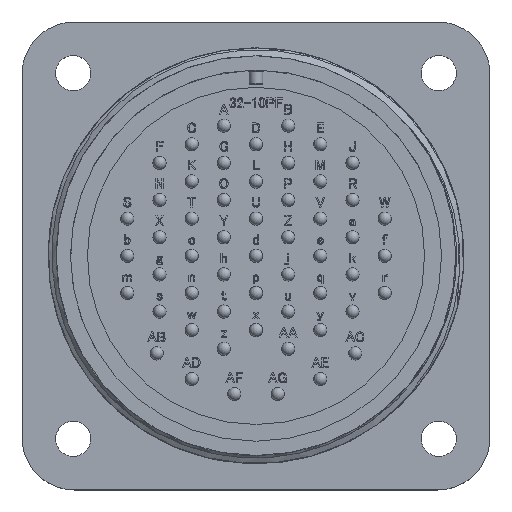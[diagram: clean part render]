
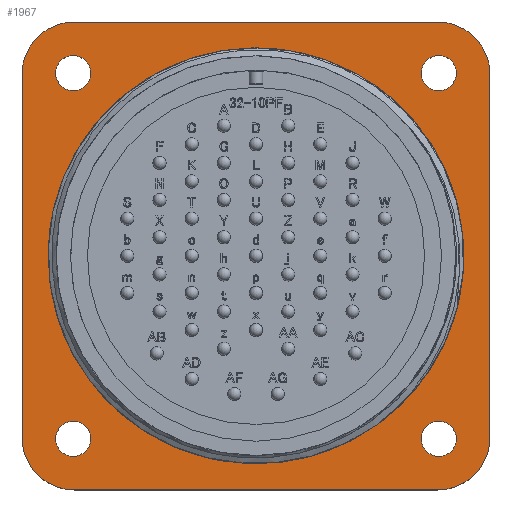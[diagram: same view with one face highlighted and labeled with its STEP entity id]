
A CAD part, top view. The second image highlights one B-rep face of the part: STEP entity #1967.
In plain terms, the highlighted planar face has unit normal (0, 0, 1).
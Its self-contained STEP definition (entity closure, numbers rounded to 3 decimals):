
#440 = CARTESIAN_POINT ( 'NONE',  ( -20.09, -22.225, -22.4 ) ) ;
#1967 = ADVANCED_FACE ( 'NONE', ( #3625, #40450, #78853, #14324, #52782, #75802 ), #93837, .F. ) ;
#2066 = VERTEX_POINT ( 'NONE', #59291 ) ;
#2617 = ORIENTED_EDGE ( 'NONE', *, *, #76291, .F. ) ;
#3625 = FACE_BOUND ( 'NONE', #23440, .T. ) ;
#7228 = CIRCLE ( 'NONE', #110377, 2.135 ) ;
#8213 = CARTESIAN_POINT ( 'NONE',  ( -24.36, 22.225, -22.4 ) ) ;
#8382 = ORIENTED_EDGE ( 'NONE', *, *, #96930, .T. ) ;
#10561 = EDGE_CURVE ( 'NONE', #98859, #38527, #21570, .T. ) ;
#13466 = AXIS2_PLACEMENT_3D ( 'NONE', #19296, #48497, #125814 ) ;
#14324 = FACE_BOUND ( 'NONE', #119192, .T. ) ;
#15451 = DIRECTION ( 'NONE',  ( 0., 0., 1. ) ) ;
#16387 = ORIENTED_EDGE ( 'NONE', *, *, #30510, .F. ) ;
#17126 = AXIS2_PLACEMENT_3D ( 'NONE', #17609, #105623, #86289 ) ;
#17609 = CARTESIAN_POINT ( 'NONE',  ( -22.225, 22.225, -22.4 ) ) ;
#18961 = VERTEX_POINT ( 'NONE', #440 ) ;
#19296 = CARTESIAN_POINT ( 'NONE',  ( 22.225, -22.225, -22.4 ) ) ;
#20529 = CARTESIAN_POINT ( 'NONE',  ( -28.45, 22.1, -22.4 ) ) ;
#21260 = DIRECTION ( 'NONE',  ( 0., 0., 1. ) ) ;
#21341 = DIRECTION ( 'NONE',  ( 1., 0., 0. ) ) ;
#21570 = LINE ( 'NONE', #54802, #123019 ) ;
#23080 = EDGE_CURVE ( 'NONE', #38527, #91988, #104775, .T. ) ;
#23440 = EDGE_LOOP ( 'NONE', ( #94217 ) ) ;
#23743 = EDGE_CURVE ( 'NONE', #113754, #96697, #41547, .T. ) ;
#23864 = AXIS2_PLACEMENT_3D ( 'NONE', #84351, #56420, #83930 ) ;
#24008 = ORIENTED_EDGE ( 'NONE', *, *, #23080, .T. ) ;
#25367 = DIRECTION ( 'NONE',  ( 0., 1., 0. ) ) ;
#26121 = EDGE_LOOP ( 'NONE', ( #24008, #8382, #106856, #30873, #126660, #65773, #95352, #69635 ) ) ;
#30510 = EDGE_CURVE ( 'NONE', #66629, #66629, #31058, .T. ) ;
#30643 = DIRECTION ( 'NONE',  ( 0., 0., 1. ) ) ;
#30833 = CARTESIAN_POINT ( 'NONE',  ( 22.1, 28.45, -22.4 ) ) ;
#30873 = ORIENTED_EDGE ( 'NONE', *, *, #23743, .T. ) ;
#31058 = CIRCLE ( 'NONE', #17126, 2.135 ) ;
#32312 = CARTESIAN_POINT ( 'NONE',  ( 22.1, 22.1, -22.4 ) ) ;
#33404 = CARTESIAN_POINT ( 'NONE',  ( -28.45, 22.1, -22.4 ) ) ;
#33512 = DIRECTION ( 'NONE',  ( 1., 0., 0. ) ) ;
#33633 = AXIS2_PLACEMENT_3D ( 'NONE', #32312, #30643, #60282 ) ;
#34296 = CIRCLE ( 'NONE', #13466, 2.135 ) ;
#38527 = VERTEX_POINT ( 'NONE', #49370 ) ;
#39094 = ORIENTED_EDGE ( 'NONE', *, *, #72281, .F. ) ;
#39743 = CARTESIAN_POINT ( 'NONE',  ( -22.225, -22.225, -22.4 ) ) ;
#40450 = FACE_BOUND ( 'NONE', #112407, .T. ) ;
#41547 = LINE ( 'NONE', #79289, #103063 ) ;
#45076 = CARTESIAN_POINT ( 'NONE',  ( -22.1, -22.1, -22.4 ) ) ;
#45442 = CIRCLE ( 'NONE', #69871, 6.35 ) ;
#46272 = AXIS2_PLACEMENT_3D ( 'NONE', #108269, #50305, #59754 ) ;
#48430 = VECTOR ( 'NONE', #25367, 1000. ) ;
#48477 = LINE ( 'NONE', #33404, #91499 ) ;
#48497 = DIRECTION ( 'NONE',  ( 0., 0., 1. ) ) ;
#48510 = AXIS2_PLACEMENT_3D ( 'NONE', #90982, #71606, #91417 ) ;
#49370 = CARTESIAN_POINT ( 'NONE',  ( -22.1, 28.45, -22.4 ) ) ;
#50305 = DIRECTION ( 'NONE',  ( 0., 0., 1. ) ) ;
#52782 = FACE_OUTER_BOUND ( 'NONE', #26121, .T. ) ;
#52955 = EDGE_CURVE ( 'NONE', #18961, #18961, #73364, .T. ) ;
#53838 = ORIENTED_EDGE ( 'NONE', *, *, #121753, .F. ) ;
#54157 = CIRCLE ( 'NONE', #112705, 25.265 ) ;
#54553 = LINE ( 'NONE', #64040, #48430 ) ;
#54802 = CARTESIAN_POINT ( 'NONE',  ( -22.1, 28.45, -22.4 ) ) ;
#54875 = EDGE_CURVE ( 'NONE', #84525, #113754, #45442, .T. ) ;
#56420 = DIRECTION ( 'NONE',  ( 0., 0., -1. ) ) ;
#59291 = CARTESIAN_POINT ( 'NONE',  ( 24.36, 22.225, -22.4 ) ) ;
#59754 = DIRECTION ( 'NONE',  ( -1., 0., 0. ) ) ;
#60282 = DIRECTION ( 'NONE',  ( -1., 0., 0. ) ) ;
#64040 = CARTESIAN_POINT ( 'NONE',  ( 28.45, 22.1, -22.4 ) ) ;
#65773 = ORIENTED_EDGE ( 'NONE', *, *, #108715, .T. ) ;
#66629 = VERTEX_POINT ( 'NONE', #8213 ) ;
#69635 = ORIENTED_EDGE ( 'NONE', *, *, #10561, .T. ) ;
#69871 = AXIS2_PLACEMENT_3D ( 'NONE', #45076, #15451, #122400 ) ;
#71606 = DIRECTION ( 'NONE',  ( 0., 0., 1. ) ) ;
#72281 = EDGE_CURVE ( 'NONE', #2066, #2066, #7228, .T. ) ;
#72424 = EDGE_LOOP ( 'NONE', ( #53838 ) ) ;
#72593 = DIRECTION ( 'NONE',  ( 0., 0., 1. ) ) ;
#73364 = CIRCLE ( 'NONE', #106010, 2.135 ) ;
#74252 = VERTEX_POINT ( 'NONE', #77731 ) ;
#75802 = FACE_BOUND ( 'NONE', #72424, .T. ) ;
#76223 = DIRECTION ( 'NONE',  ( -1., 0., 0. ) ) ;
#76226 = CIRCLE ( 'NONE', #48510, 6.35 ) ;
#76291 = EDGE_CURVE ( 'NONE', #74252, #74252, #34296, .T. ) ;
#77731 = CARTESIAN_POINT ( 'NONE',  ( 20.09, -22.225, -22.4 ) ) ;
#78853 = FACE_BOUND ( 'NONE', #120849, .T. ) ;
#79289 = CARTESIAN_POINT ( 'NONE',  ( -22.1, -28.45, -22.4 ) ) ;
#80494 = DIRECTION ( 'NONE',  ( 1., 0., 0. ) ) ;
#83602 = EDGE_CURVE ( 'NONE', #96697, #111015, #76226, .T. ) ;
#83930 = DIRECTION ( 'NONE',  ( -1., 0., 0. ) ) ;
#84351 = CARTESIAN_POINT ( 'NONE',  ( -22.1, 22.1, -22.4 ) ) ;
#84525 = VERTEX_POINT ( 'NONE', #96824 ) ;
#86289 = DIRECTION ( 'NONE',  ( -1., 0., 0. ) ) ;
#87536 = CARTESIAN_POINT ( 'NONE',  ( -22.1, -28.45, -22.4 ) ) ;
#89119 = EDGE_CURVE ( 'NONE', #103494, #98859, #114977, .T. ) ;
#90982 = CARTESIAN_POINT ( 'NONE',  ( 22.1, -22.1, -22.4 ) ) ;
#91417 = DIRECTION ( 'NONE',  ( 1., 0., 0. ) ) ;
#91499 = VECTOR ( 'NONE', #112012, 1000. ) ;
#91972 = CARTESIAN_POINT ( 'NONE',  ( 22.225, 22.225, -22.4 ) ) ;
#91988 = VERTEX_POINT ( 'NONE', #20529 ) ;
#93837 = PLANE ( 'NONE',  #23864 ) ;
#94217 = ORIENTED_EDGE ( 'NONE', *, *, #52955, .F. ) ;
#95352 = ORIENTED_EDGE ( 'NONE', *, *, #89119, .T. ) ;
#96697 = VERTEX_POINT ( 'NONE', #107762 ) ;
#96824 = CARTESIAN_POINT ( 'NONE',  ( -28.45, -22.1, -22.4 ) ) ;
#96930 = EDGE_CURVE ( 'NONE', #91988, #84525, #48477, .T. ) ;
#98859 = VERTEX_POINT ( 'NONE', #30833 ) ;
#103063 = VECTOR ( 'NONE', #21341, 1000. ) ;
#103494 = VERTEX_POINT ( 'NONE', #125803 ) ;
#104775 = CIRCLE ( 'NONE', #46272, 6.35 ) ;
#104902 = DIRECTION ( 'NONE',  ( 0., 0., 1. ) ) ;
#105623 = DIRECTION ( 'NONE',  ( 0., 0., 1. ) ) ;
#106010 = AXIS2_PLACEMENT_3D ( 'NONE', #39743, #21260, #80494 ) ;
#106089 = CARTESIAN_POINT ( 'NONE',  ( 28.45, -22.1, -22.4 ) ) ;
#106856 = ORIENTED_EDGE ( 'NONE', *, *, #54875, .T. ) ;
#107762 = CARTESIAN_POINT ( 'NONE',  ( 22.1, -28.45, -22.4 ) ) ;
#108269 = CARTESIAN_POINT ( 'NONE',  ( -22.1, 22.1, -22.4 ) ) ;
#108715 = EDGE_CURVE ( 'NONE', #111015, #103494, #54553, .T. ) ;
#110377 = AXIS2_PLACEMENT_3D ( 'NONE', #91972, #72593, #33512 ) ;
#110798 = CARTESIAN_POINT ( 'NONE',  ( -25.265, 0., -22.4 ) ) ;
#111015 = VERTEX_POINT ( 'NONE', #106089 ) ;
#112012 = DIRECTION ( 'NONE',  ( 0., -1., 0. ) ) ;
#112407 = EDGE_LOOP ( 'NONE', ( #2617 ) ) ;
#112601 = VERTEX_POINT ( 'NONE', #110798 ) ;
#112705 = AXIS2_PLACEMENT_3D ( 'NONE', #122983, #104902, #123848 ) ;
#113754 = VERTEX_POINT ( 'NONE', #87536 ) ;
#114977 = CIRCLE ( 'NONE', #33633, 6.35 ) ;
#119192 = EDGE_LOOP ( 'NONE', ( #39094 ) ) ;
#120849 = EDGE_LOOP ( 'NONE', ( #16387 ) ) ;
#121753 = EDGE_CURVE ( 'NONE', #112601, #112601, #54157, .T. ) ;
#122400 = DIRECTION ( 'NONE',  ( -1., 0., 0. ) ) ;
#122983 = CARTESIAN_POINT ( 'NONE',  ( 0., 0., -22.4 ) ) ;
#123019 = VECTOR ( 'NONE', #76223, 1000. ) ;
#123848 = DIRECTION ( 'NONE',  ( -1., 0., 0. ) ) ;
#125803 = CARTESIAN_POINT ( 'NONE',  ( 28.45, 22.1, -22.4 ) ) ;
#125814 = DIRECTION ( 'NONE',  ( -1., 0., 0. ) ) ;
#126660 = ORIENTED_EDGE ( 'NONE', *, *, #83602, .T. ) ;
